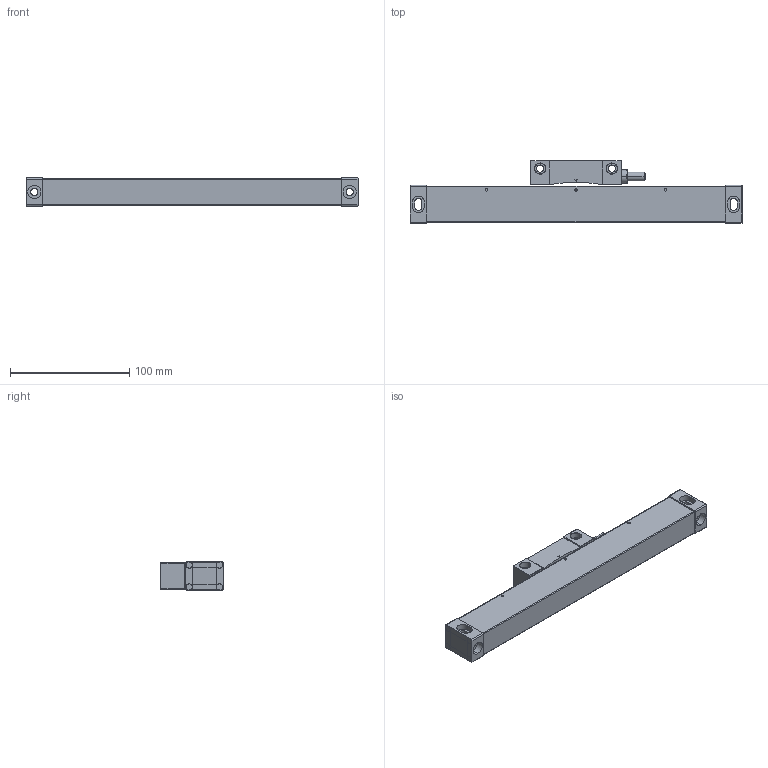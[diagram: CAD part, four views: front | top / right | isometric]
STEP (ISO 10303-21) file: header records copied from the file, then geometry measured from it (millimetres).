
FILE_DESCRIPTION (( 'STEP AP214' ), '1' );
FILE_NAME ('JCXE150-W5.step', '2023-05-18T05:20:30', ( 'Windows 蚚誧' ), ( '' ), 'SwSTEP 2.0', 'SolidWorks 2016', '' );
FILE_SCHEMA (( 'AUTOMOTIVE_DESIGN' ));
Length unit declared in the file: millimetre
Products named in the file (1): JCXE150-W5
Bounding box: 278 x 52.5 x 23.5 mm (x, y, z)
Volume: 204799.5 mm3; surface area: 42690.4 mm2
Topology: 2 solids, 2 shells, 307 faces, 756 edges, 466 vertices
Faces by surface type: cylinder 138, plane 134, torus 22, sphere 11, cone 2
Entity records: 9260 total; most frequent: CARTESIAN_POINT 1860, DIRECTION 1588, ORIENTED_EDGE 1486, EDGE_CURVE 743, AXIS2_PLACEMENT_3D 596, VERTEX_POINT 464, LINE 396, VECTOR 396
